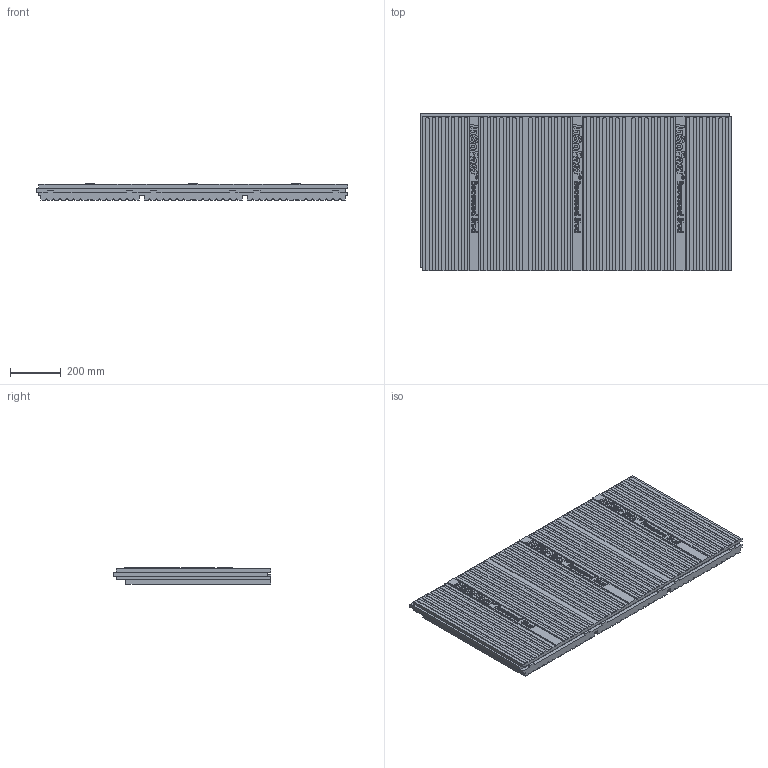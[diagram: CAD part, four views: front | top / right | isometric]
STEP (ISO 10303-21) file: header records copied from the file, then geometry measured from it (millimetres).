
FILE_DESCRIPTION (( 'STEP AP214' ), '1' );
FILE_NAME ('EXI Website.STEP', '2020-06-16T21:59:14', ( '' ), ( '' ), 'SwSTEP 2.0', 'SolidWorks 2020', '' );
FILE_SCHEMA (( 'AUTOMOTIVE_DESIGN' ));
Length unit declared in the file: inch
Products named in the file (1): EXI Website
Bounding box: 1228.72 x 622.3 x 64.52 mm (x, y, z)
Volume: 43832706.9 mm3; surface area: 2208925.5 mm2
Topology: 4 solids, 4 shells, 1320 faces, 3644 edges, 2428 vertices
Faces by surface type: plane 762, bspline 468, cylinder 78, cone 12
Entity records: 102476 total; most frequent: CARTESIAN_POINT 55340, ORIENTED_EDGE 7288, DIRECTION 4222, EDGE_CURVE 3644, VERTEX_POINT 2428, VECTOR 2156, LINE 2156, EDGE_LOOP 1416
